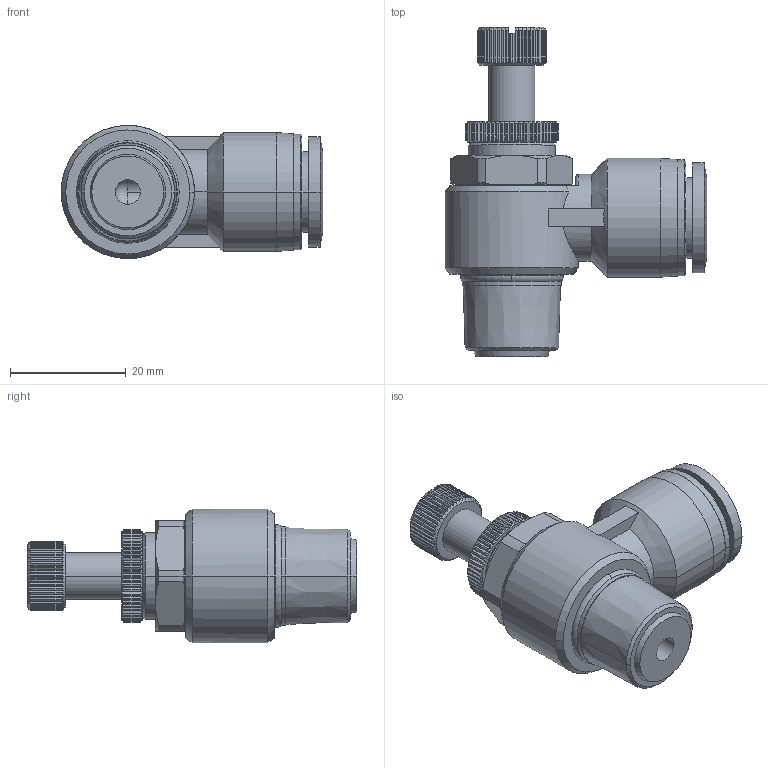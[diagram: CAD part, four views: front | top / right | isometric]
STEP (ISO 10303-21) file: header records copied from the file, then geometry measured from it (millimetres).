
FILE_DESCRIPTION (( 'STEP AP203' ), '1' );
FILE_NAME ('SCL12-03.STEP', '2020-05-12T15:38:33', ( '' ), ( '' ), 'SwSTEP 2.0', 'SolidWorks 2019', '' );
FILE_SCHEMA (( 'CONFIG_CONTROL_DESIGN' ));
Length unit declared in the file: millimetre
Products named in the file (1): SCL12-03
Bounding box: 45.15 x 56.8 x 23 mm (x, y, z)
Volume: 16588.7 mm3; surface area: 7170.3 mm2
Topology: 1 solids, 1 shells, 568 faces, 1384 edges, 830 vertices
Faces by surface type: plane 255, cone 161, cylinder 146, torus 3, bspline 2, sphere 1
Entity records: 16256 total; most frequent: CARTESIAN_POINT 3984, ORIENTED_EDGE 2766, DIRECTION 2519, EDGE_CURVE 1383, AXIS2_PLACEMENT_3D 1043, VERTEX_POINT 830, EDGE_LOOP 583, FACE_OUTER_BOUND 568
